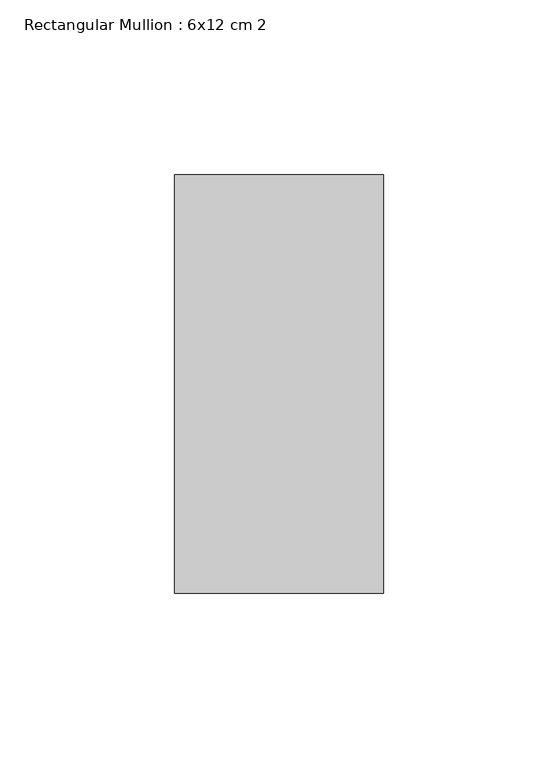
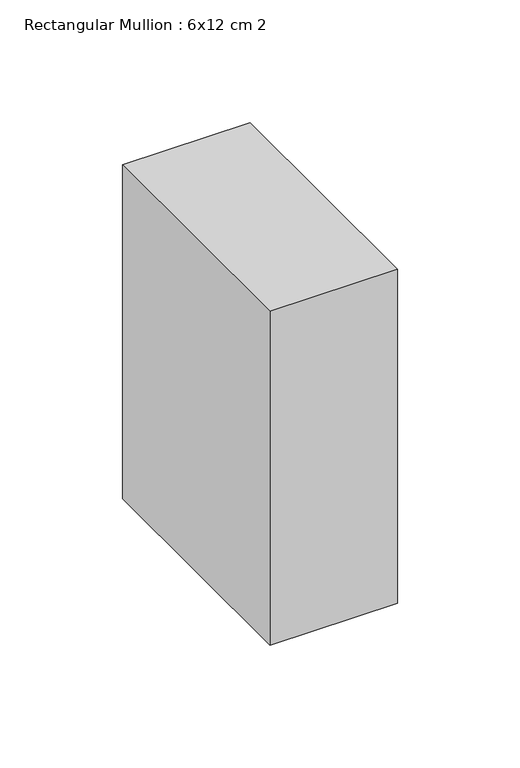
"""IFC4 building model written with IfcOpenShell, lengths in millimetres: member geometry, Rectangular Mullion : 6x12 cm 2."""

from ifc_helpers import new_model, si_unit, frame, origin, place, context, project, spatial, polyline, outline, extrude, source, transform, mapped, element, save


def rectangular_mullion_6x12_cm_2_34e354e9(model_context):
    return source(origin(), model_context, "Body", "SweptSolid", [
        extrude(outline(polyline([(0.0, 205.0), (0.0, 85.0), (-60.0, 85.0), (-60.0, 205.0), (0.0, 205.0)])), frame((0.0, 0.0, -166.1042007), z_axis=(0.0, 0.0, 1.0), x_axis=(1.0, 0.0, 0.0)), (0.0, 0.0, 1.0), 166.1042007),
    ])


if __name__ == "__main__":
    model = new_model("IFC4")
    model_context = context("Model", 3, world=origin())
    ifc_project = project(units=[si_unit("LENGTHUNIT", "METRE", prefix="MILLI")], contexts=[model_context])
    site = spatial("IfcSite", under=ifc_project)
    building = spatial("IfcBuilding", under=site)
    placement = place(None, origin())
    rectangular_mullion_6x12_cm_2_shape = rectangular_mullion_6x12_cm_2_34e354e9(model_context)
    element("IfcMember", 1, ObjectType="Rectangular Mullion : 6x12 cm 2", at=placement, inside=building, context=model_context, shape_type="MappedRepresentation", body=[
        mapped(rectangular_mullion_6x12_cm_2_shape, transform((0.0, 0.0, 0.0), x_axis=(1.0, 0.0, 0.0), y_axis=(0.0, 1.0, 0.0), z_axis=(0.0, 0.0, 1.0))),
    ])
    save(model, "model.ifc")
